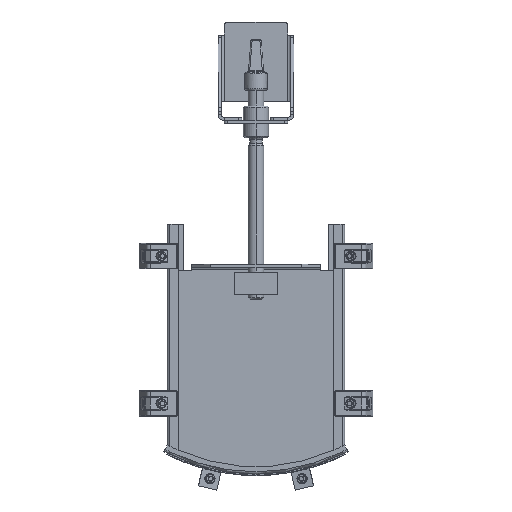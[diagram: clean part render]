
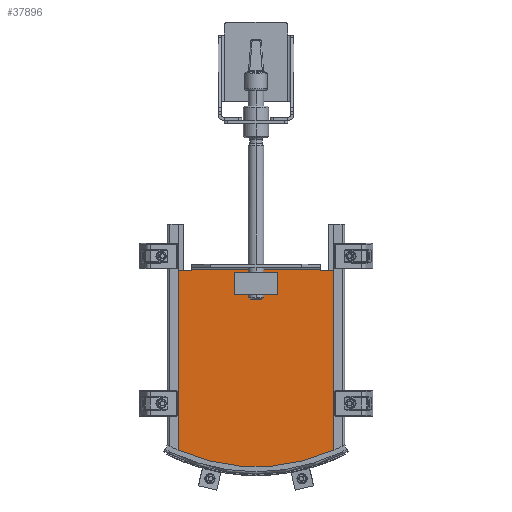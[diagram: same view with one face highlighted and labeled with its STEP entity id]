
A CAD part, top view. The second image highlights one B-rep face of the part: STEP entity #37896.
In plain terms, the highlighted planar face has unit normal (0, 0, 1).
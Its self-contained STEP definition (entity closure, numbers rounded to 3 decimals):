
#84 = CARTESIAN_POINT ( 'NONE',  ( 0., 300., 33. ) ) ;
#984 = DIRECTION ( 'NONE',  ( 0., 0., -1. ) ) ;
#1517 = CIRCLE ( 'NONE', #4300, 2. ) ;
#1541 = DIRECTION ( 'NONE',  ( 1., 0., 0. ) ) ;
#3380 = DIRECTION ( 'NONE',  ( 1., 0., 0. ) ) ;
#3440 = DIRECTION ( 'NONE',  ( -1., 0., 0. ) ) ;
#4095 = DIRECTION ( 'NONE',  ( 1., 0., 0. ) ) ;
#4300 = AXIS2_PLACEMENT_3D ( 'NONE', #35094, #35373, #3380 ) ;
#5061 = CARTESIAN_POINT ( 'NONE',  ( 102., 312., 33. ) ) ;
#5606 = EDGE_CURVE ( 'NONE', #46551, #25253, #20368, .T. ) ;
#6420 = CARTESIAN_POINT ( 'NONE',  ( -104., 310., 33. ) ) ;
#6682 = LINE ( 'NONE', #34314, #15612 ) ;
#7176 = CARTESIAN_POINT ( 'NONE',  ( -34., 272.5, 33. ) ) ;
#7283 = EDGE_LOOP ( 'NONE', ( #42264, #38545, #42010, #33098 ) ) ;
#7609 = PLANE ( 'NONE',  #55731 ) ;
#7823 = ORIENTED_EDGE ( 'NONE', *, *, #5606, .T. ) ;
#8216 = VECTOR ( 'NONE', #34785, 1000. ) ;
#8317 = EDGE_CURVE ( 'NONE', #8364, #33709, #57576, .T. ) ;
#8364 = VERTEX_POINT ( 'NONE', #28176 ) ;
#8555 = CIRCLE ( 'NONE', #56867, 2. ) ;
#8830 = CARTESIAN_POINT ( 'NONE',  ( 104., 310., 33. ) ) ;
#9828 = ORIENTED_EDGE ( 'NONE', *, *, #31422, .T. ) ;
#11013 = VECTOR ( 'NONE', #26778, 1000. ) ;
#11443 = EDGE_LOOP ( 'NONE', ( #19904, #7823, #39068, #41231, #15864, #14172, #9828, #37370 ) ) ;
#11574 = LINE ( 'NONE', #51759, #34199 ) ;
#11880 = LINE ( 'NONE', #7176, #25705 ) ;
#12017 = CARTESIAN_POINT ( 'NONE',  ( 122.995, 26.372, 33. ) ) ;
#12636 = DIRECTION ( 'NONE',  ( -1., 0., 0. ) ) ;
#12872 = DIRECTION ( 'NONE',  ( 0., 0., 1. ) ) ;
#13384 = LINE ( 'NONE', #13682, #11013 ) ;
#13461 = DIRECTION ( 'NONE',  ( 1., 0., 0. ) ) ;
#13682 = CARTESIAN_POINT ( 'NONE',  ( -123.172, 310., 33. ) ) ;
#13832 = CARTESIAN_POINT ( 'NONE',  ( -34., 272.5, 33. ) ) ;
#14046 = VERTEX_POINT ( 'NONE', #32233 ) ;
#14172 = ORIENTED_EDGE ( 'NONE', *, *, #40855, .T. ) ;
#15612 = VECTOR ( 'NONE', #38665, 1000. ) ;
#15864 = ORIENTED_EDGE ( 'NONE', *, *, #48139, .T. ) ;
#17175 = DIRECTION ( 'NONE',  ( 0., -1., 0. ) ) ;
#17729 = CARTESIAN_POINT ( 'NONE',  ( -130., 312., 33. ) ) ;
#17873 = DIRECTION ( 'NONE',  ( 0., 0., -1. ) ) ;
#17987 = VERTEX_POINT ( 'NONE', #45503 ) ;
#18154 = VERTEX_POINT ( 'NONE', #12017 ) ;
#18854 = EDGE_CURVE ( 'NONE', #14046, #50156, #6682, .T. ) ;
#19520 = EDGE_CURVE ( 'NONE', #46551, #18154, #52605, .T. ) ;
#19904 = ORIENTED_EDGE ( 'NONE', *, *, #19520, .F. ) ;
#20368 = LINE ( 'NONE', #33437, #24227 ) ;
#21273 = CARTESIAN_POINT ( 'NONE',  ( -122.995, 26.372, 33. ) ) ;
#22578 = CARTESIAN_POINT ( 'NONE',  ( 104., 312., 33. ) ) ;
#22620 = CARTESIAN_POINT ( 'NONE',  ( 122.995, 310., 33. ) ) ;
#24227 = VECTOR ( 'NONE', #3440, 1000. ) ;
#24887 = EDGE_CURVE ( 'NONE', #17987, #50959, #11574, .T. ) ;
#24990 = DIRECTION ( 'NONE',  ( 1., 0., 0. ) ) ;
#25253 = VERTEX_POINT ( 'NONE', #8830 ) ;
#25259 = CARTESIAN_POINT ( 'NONE',  ( 122.995, 31.851, 33. ) ) ;
#25705 = VECTOR ( 'NONE', #24990, 1000. ) ;
#26778 = DIRECTION ( 'NONE',  ( -1., 0., 0. ) ) ;
#28176 = CARTESIAN_POINT ( 'NONE',  ( -102., 312., 33. ) ) ;
#31422 = EDGE_CURVE ( 'NONE', #43468, #49737, #32879, .T. ) ;
#31985 = EDGE_CURVE ( 'NONE', #25253, #33709, #8555, .T. ) ;
#32233 = CARTESIAN_POINT ( 'NONE',  ( 34., 272.5, 33. ) ) ;
#32436 = VECTOR ( 'NONE', #35397, 1000. ) ;
#32879 = LINE ( 'NONE', #50692, #45658 ) ;
#33098 = ORIENTED_EDGE ( 'NONE', *, *, #48030, .F. ) ;
#33437 = CARTESIAN_POINT ( 'NONE',  ( 123.172, 310., 33. ) ) ;
#33709 = VERTEX_POINT ( 'NONE', #5061 ) ;
#34199 = VECTOR ( 'NONE', #55539, 1000. ) ;
#34314 = CARTESIAN_POINT ( 'NONE',  ( 34., 307.5, 33. ) ) ;
#34785 = DIRECTION ( 'NONE',  ( 0., -1., 0. ) ) ;
#35094 = CARTESIAN_POINT ( 'NONE',  ( -104., 312., 33. ) ) ;
#35373 = DIRECTION ( 'NONE',  ( 0., 0., -1. ) ) ;
#35397 = DIRECTION ( 'NONE',  ( 1., 0., 0. ) ) ;
#37041 = EDGE_CURVE ( 'NONE', #50156, #17987, #52520, .T. ) ;
#37370 = ORIENTED_EDGE ( 'NONE', *, *, #44768, .F. ) ;
#37896 = ADVANCED_FACE ( 'NONE', ( #52178, #44256 ), #7609, .T. ) ;
#38545 = ORIENTED_EDGE ( 'NONE', *, *, #37041, .F. ) ;
#38665 = DIRECTION ( 'NONE',  ( 0., 1., 0. ) ) ;
#39068 = ORIENTED_EDGE ( 'NONE', *, *, #31985, .T. ) ;
#39468 = AXIS2_PLACEMENT_3D ( 'NONE', #84, #17873, #13461 ) ;
#39845 = VERTEX_POINT ( 'NONE', #6420 ) ;
#40855 = EDGE_CURVE ( 'NONE', #39845, #43468, #13384, .T. ) ;
#41231 = ORIENTED_EDGE ( 'NONE', *, *, #8317, .F. ) ;
#41591 = CARTESIAN_POINT ( 'NONE',  ( -122.995, 310., 33. ) ) ;
#42010 = ORIENTED_EDGE ( 'NONE', *, *, #18854, .F. ) ;
#42264 = ORIENTED_EDGE ( 'NONE', *, *, #24887, .F. ) ;
#43468 = VERTEX_POINT ( 'NONE', #41591 ) ;
#44256 = FACE_BOUND ( 'NONE', #7283, .T. ) ;
#44768 = EDGE_CURVE ( 'NONE', #18154, #49737, #45965, .T. ) ;
#45503 = CARTESIAN_POINT ( 'NONE',  ( -34., 307.5, 33. ) ) ;
#45658 = VECTOR ( 'NONE', #17175, 1000. ) ;
#45965 = CIRCLE ( 'NONE', #39468, 300. ) ;
#46551 = VERTEX_POINT ( 'NONE', #22620 ) ;
#48030 = EDGE_CURVE ( 'NONE', #50959, #14046, #11880, .T. ) ;
#48139 = EDGE_CURVE ( 'NONE', #8364, #39845, #1517, .T. ) ;
#49737 = VERTEX_POINT ( 'NONE', #21273 ) ;
#50156 = VERTEX_POINT ( 'NONE', #56914 ) ;
#50692 = CARTESIAN_POINT ( 'NONE',  ( -122.995, -36.701, 33. ) ) ;
#50959 = VERTEX_POINT ( 'NONE', #13832 ) ;
#51759 = CARTESIAN_POINT ( 'NONE',  ( -34., 307.5, 33. ) ) ;
#52178 = FACE_OUTER_BOUND ( 'NONE', #11443, .T. ) ;
#52520 = LINE ( 'NONE', #52820, #55573 ) ;
#52605 = LINE ( 'NONE', #25259, #8216 ) ;
#52820 = CARTESIAN_POINT ( 'NONE',  ( -34., 307.5, 33. ) ) ;
#55539 = DIRECTION ( 'NONE',  ( 0., -1., 0. ) ) ;
#55573 = VECTOR ( 'NONE', #12636, 1000. ) ;
#55731 = AXIS2_PLACEMENT_3D ( 'NONE', #56522, #12872, #4095 ) ;
#56522 = CARTESIAN_POINT ( 'NONE',  ( -130., 31.851, 33. ) ) ;
#56867 = AXIS2_PLACEMENT_3D ( 'NONE', #22578, #984, #1541 ) ;
#56914 = CARTESIAN_POINT ( 'NONE',  ( 34., 307.5, 33. ) ) ;
#57576 = LINE ( 'NONE', #17729, #32436 ) ;
